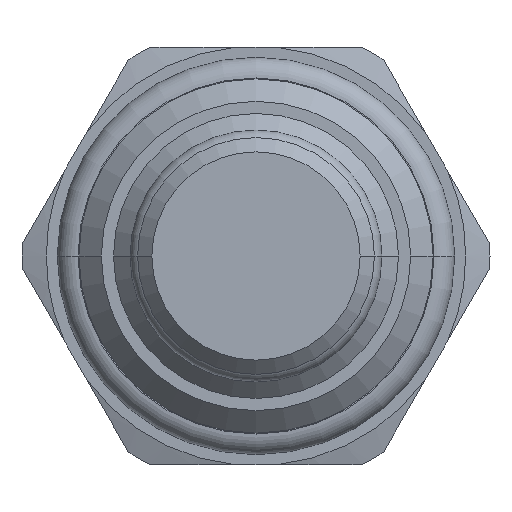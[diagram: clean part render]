
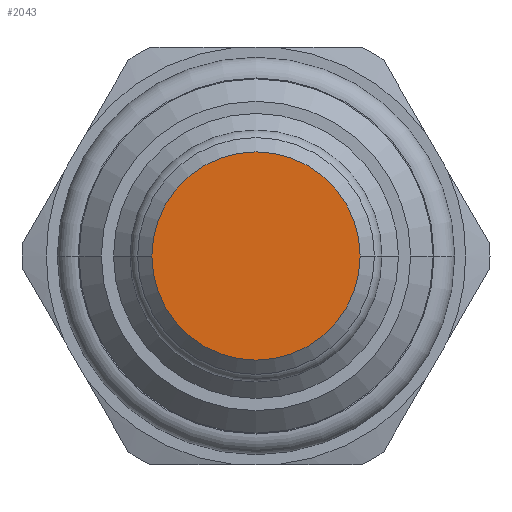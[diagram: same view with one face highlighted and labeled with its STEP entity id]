
A CAD part, front view. The second image highlights one B-rep face of the part: STEP entity #2043.
In plain terms, the highlighted planar face has unit normal (0, -1, 0).
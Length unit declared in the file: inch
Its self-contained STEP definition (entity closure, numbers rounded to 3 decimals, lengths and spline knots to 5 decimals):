
#842=CARTESIAN_POINT('',(0.,-1.091,0.));
#843=DIRECTION('',(0.,1.,0.));
#844=DIRECTION('',(1.,0.,0.));
#845=AXIS2_PLACEMENT_3D('',#842,#843,#844);
#847=CARTESIAN_POINT('',(0.,-1.091,0.));
#848=DIRECTION('',(0.,1.,0.));
#849=DIRECTION('',(-1.,0.,0.));
#850=AXIS2_PLACEMENT_3D('',#847,#848,#849);
#865=CARTESIAN_POINT('',(0.2185,-1.091,0.));
#866=CARTESIAN_POINT('',(-0.2185,-1.091,0.));
#867=VERTEX_POINT('',#865);
#868=VERTEX_POINT('',#866);
#2033=CARTESIAN_POINT('',(0.,-1.091,0.));
#2034=DIRECTION('',(0.,-1.,0.));
#2035=DIRECTION('',(-1.,0.,0.));
#2036=AXIS2_PLACEMENT_3D('',#2033,#2034,#2035);
#2037=PLANE('',#2036);
#2039=ORIENTED_EDGE('',*,*,#2038,.T.);
#2040=ORIENTED_EDGE('',*,*,#2023,.T.);
#2041=EDGE_LOOP('',(#2039,#2040));
#2042=FACE_OUTER_BOUND('',#2041,.F.);
#2043=ADVANCED_FACE('',(#2042),#2037,.T.);
#846=CIRCLE('',#845,0.2185);
#851=CIRCLE('',#850,0.2185);
#2023=EDGE_CURVE('',#868,#867,#851,.T.);
#2038=EDGE_CURVE('',#867,#868,#846,.T.);
